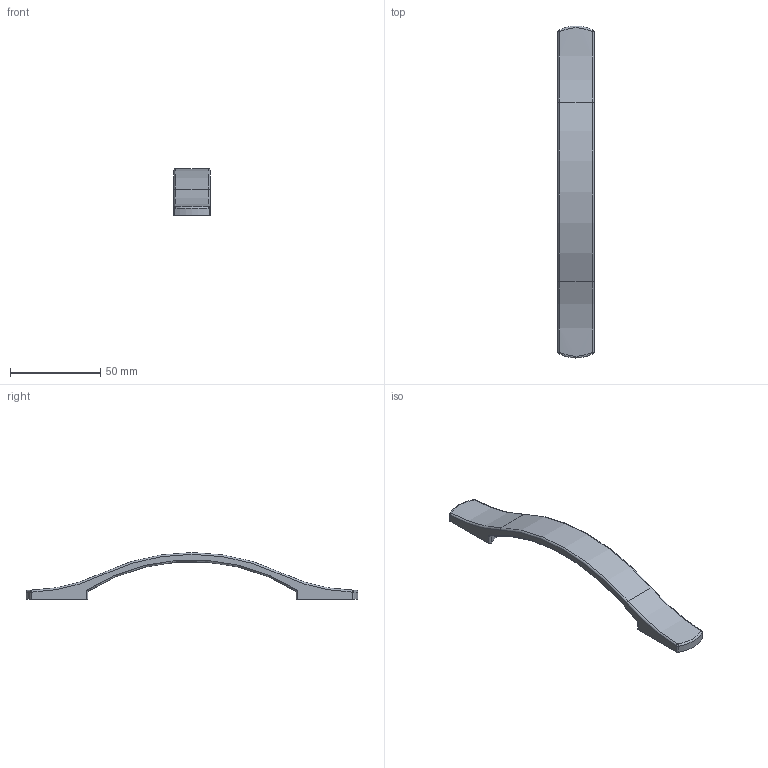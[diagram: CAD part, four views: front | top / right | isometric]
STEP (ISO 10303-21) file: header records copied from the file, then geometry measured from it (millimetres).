
FILE_DESCRIPTION( ( 'Unknown' ), '1' );
FILE_NAME( 'C:/Users/Georges/Desktop/022/8014.stp', 'Unknown', ( 'Unknown' ), ( 'Unknown' ), 'PSStep 16.0.42', 'Unknown', ' ' );
FILE_SCHEMA( ( 'AUTOMOTIVE_DESIGN { 1 0 10303 214 1 1 1 1 }' ) );
Length unit declared in the file: millimetre
Products named in the file (1): 1
Bounding box: 20 x 184 x 26 mm (x, y, z)
Volume: 17479.7 mm3; surface area: 11045.4 mm2
Topology: 1 solids, 1 shells, 56 faces, 134 edges, 84 vertices
Faces by surface type: cylinder 30, plane 12, torus 8, sphere 4, bspline 2
Full cylindrical faces by diameter (mm): 5.5 x2
Entity records: 2333 total; most frequent: CARTESIAN_POINT 1025, DIRECTION 280, ORIENTED_EDGE 264, EDGE_CURVE 132, AXIS2_PLACEMENT_3D 117, VERTEX_POINT 84, EDGE_LOOP 62, CIRCLE 62
